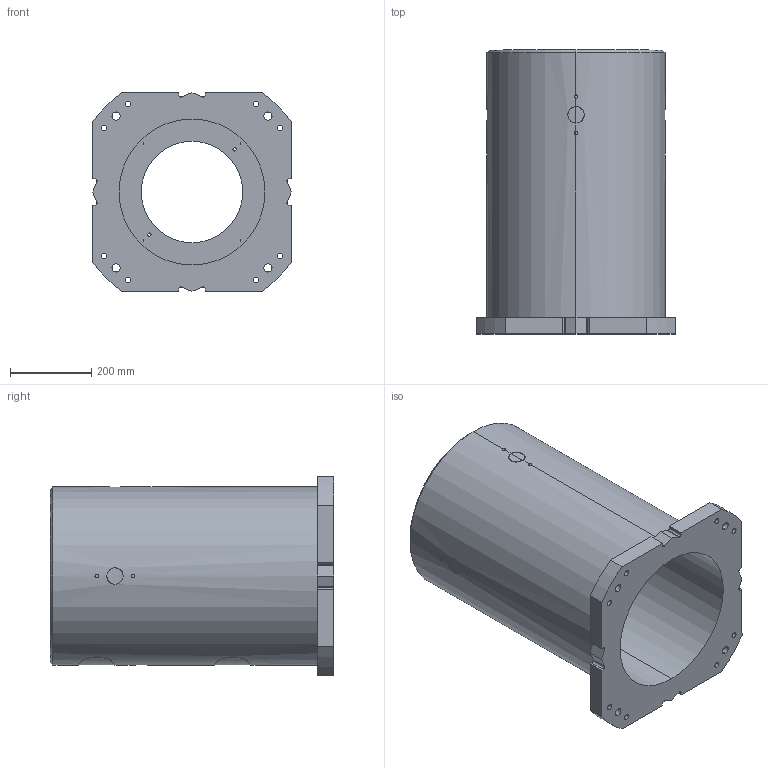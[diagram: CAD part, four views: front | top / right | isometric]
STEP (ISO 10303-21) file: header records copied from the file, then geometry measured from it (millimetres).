
FILE_DESCRIPTION (( 'STEP AP214' ), '1' );
FILE_NAME ('G-700.STEP', '2025-12-05T13:13:38', ( '' ), ( '' ), 'SwSTEP 2.0', 'SolidWorks 2022', '' );
FILE_SCHEMA (( 'AUTOMOTIVE_DESIGN' ));
Length unit declared in the file: millimetre
Products named in the file (1): G-700
Bounding box: 490 x 700 x 490 mm (x, y, z)
Volume: 40042371.9 mm3; surface area: 2147813 mm2
Topology: 1 solids, 1 shells, 175 faces, 473 edges, 308 vertices
Faces by surface type: cylinder 113, plane 28, bspline 24, cone 10
Entity records: 11310 total; most frequent: CARTESIAN_POINT 6415, ORIENTED_EDGE 930, DIRECTION 741, EDGE_CURVE 465, VERTEX_POINT 308, AXIS2_PLACEMENT_3D 278, EDGE_LOOP 221, VECTOR 185
